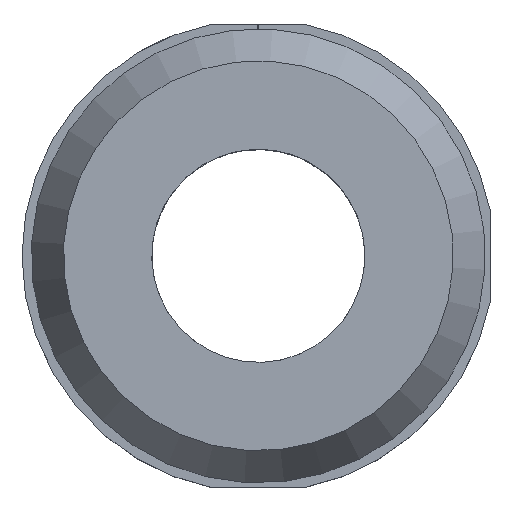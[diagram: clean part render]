
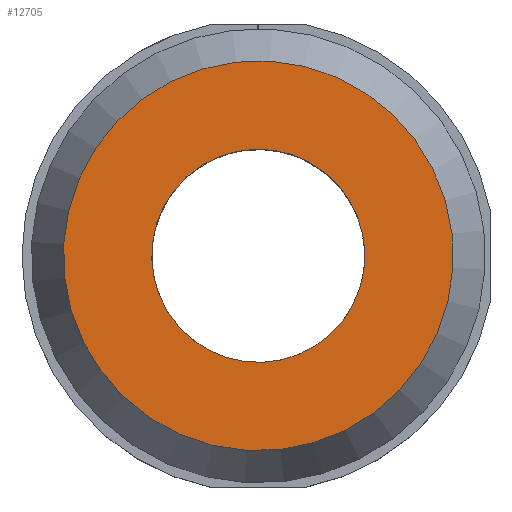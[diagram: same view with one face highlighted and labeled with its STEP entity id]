
A CAD part, top view. The second image highlights one B-rep face of the part: STEP entity #12705.
In plain terms, the highlighted planar face has unit normal (0, 0, 1).
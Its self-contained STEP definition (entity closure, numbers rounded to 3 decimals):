
#503=PLANE($,#13425);
#958=FACE_BOUND($,#1727,.T.);
#1021=FACE_OUTER_BOUND($,#1726,.T.);
#1726=EDGE_LOOP($,(#8517));
#1727=EDGE_LOOP($,(#8518));
#2452=CIRCLE($,#13426,21.036);
#2453=CIRCLE($,#13427,11.5);
#5094=VERTEX_POINT($,#18316);
#5095=VERTEX_POINT($,#18318);
#6460=EDGE_CURVE($,#5094,#5094,#2452,.T.);
#6461=EDGE_CURVE($,#5095,#5095,#2453,.T.);
#8517=ORIENTED_EDGE($,*,*,#6460,.T.);
#8518=ORIENTED_EDGE($,*,*,#6461,.T.);
#12705=ADVANCED_FACE($,(#1021,#958),#503,.T.);
#13425=AXIS2_PLACEMENT_3D($,#18315,#14698,#14699);
#13426=AXIS2_PLACEMENT_3D($,#18317,#14700,#14701);
#13427=AXIS2_PLACEMENT_3D($,#18319,#14702,#14703);
#14698=DIRECTION('center_axis',(0.,0.,
1.));
#14699=DIRECTION('ref_axis',(0.999,0.035,0.));
#14700=DIRECTION('center_axis',(0.,0.,
1.));
#14701=DIRECTION('ref_axis',(-0.113,0.994,0.));
#14702=DIRECTION('center_axis',(0.,0.,
-1.));
#14703=DIRECTION('ref_axis',(-0.999,-0.035,0.));
#18315=CARTESIAN_POINT('Origin',(-18.542,17.216,17.5));
#18316=CARTESIAN_POINT('',(-20.639,30.122,17.5));
#18317=CARTESIAN_POINT('Origin',(-18.259,9.221,17.5));
#18318=CARTESIAN_POINT('',(-6.766,9.628,17.5));
#18319=CARTESIAN_POINT('Origin',(-18.259,9.221,17.5));
